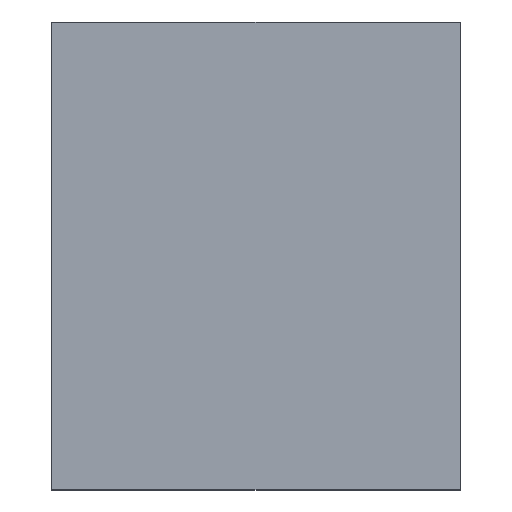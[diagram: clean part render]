
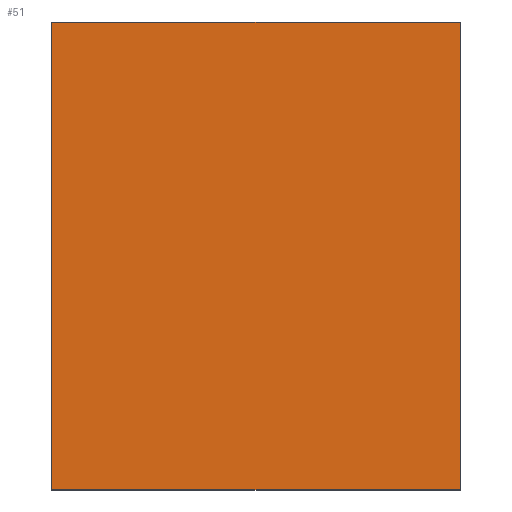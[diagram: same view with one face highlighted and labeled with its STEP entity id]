
A CAD part, top view. The second image highlights one B-rep face of the part: STEP entity #51.
In plain terms, the highlighted planar face has unit normal (0, 0, 1).
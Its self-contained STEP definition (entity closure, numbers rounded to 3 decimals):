
#4 = DIRECTION ( 'NONE',  ( -1., 0., 0. ) ) ;
#5 = VERTEX_POINT ( 'NONE', #139 ) ;
#7 = ORIENTED_EDGE ( 'NONE', *, *, #158, .T. ) ;
#20 = EDGE_LOOP ( 'NONE', ( #44, #7, #28, #76 ) ) ;
#22 = CARTESIAN_POINT ( 'NONE',  ( 0., 0., 6. ) ) ;
#28 = ORIENTED_EDGE ( 'NONE', *, *, #111, .T. ) ;
#37 = CARTESIAN_POINT ( 'NONE',  ( 173., 198., 6. ) ) ;
#39 = PLANE ( 'NONE',  #94 ) ;
#42 = LINE ( 'NONE', #114, #184 ) ;
#44 = ORIENTED_EDGE ( 'NONE', *, *, #125, .T. ) ;
#48 = CARTESIAN_POINT ( 'NONE',  ( 173., -198., 6. ) ) ;
#51 = ADVANCED_FACE ( 'NONE', ( #152 ), #39, .T. ) ;
#76 = ORIENTED_EDGE ( 'NONE', *, *, #165, .T. ) ;
#84 = VECTOR ( 'NONE', #154, 1000. ) ;
#85 = CARTESIAN_POINT ( 'NONE',  ( 173., -198., 6. ) ) ;
#91 = VERTEX_POINT ( 'NONE', #48 ) ;
#92 = DIRECTION ( 'NONE',  ( 1., 0., 0. ) ) ;
#94 = AXIS2_PLACEMENT_3D ( 'NONE', #22, #150, #92 ) ;
#103 = CARTESIAN_POINT ( 'NONE',  ( -173., -198., 6. ) ) ;
#109 = VERTEX_POINT ( 'NONE', #190 ) ;
#111 = EDGE_CURVE ( 'NONE', #91, #145, #42, .T. ) ;
#114 = CARTESIAN_POINT ( 'NONE',  ( 173., -198., 6. ) ) ;
#121 = VECTOR ( 'NONE', #4, 1000. ) ;
#125 = EDGE_CURVE ( 'NONE', #5, #109, #191, .T. ) ;
#139 = CARTESIAN_POINT ( 'NONE',  ( -173., 198., 6. ) ) ;
#145 = VERTEX_POINT ( 'NONE', #149 ) ;
#146 = LINE ( 'NONE', #85, #160 ) ;
#149 = CARTESIAN_POINT ( 'NONE',  ( 173., 198., 6. ) ) ;
#150 = DIRECTION ( 'NONE',  ( 0., 0., 1. ) ) ;
#152 = FACE_OUTER_BOUND ( 'NONE', #20, .T. ) ;
#154 = DIRECTION ( 'NONE',  ( 0., -1., 0. ) ) ;
#158 = EDGE_CURVE ( 'NONE', #109, #91, #146, .T. ) ;
#160 = VECTOR ( 'NONE', #178, 1000. ) ;
#165 = EDGE_CURVE ( 'NONE', #145, #5, #166, .T. ) ;
#166 = LINE ( 'NONE', #37, #121 ) ;
#178 = DIRECTION ( 'NONE',  ( 1., 0., 0. ) ) ;
#184 = VECTOR ( 'NONE', #192, 1000. ) ;
#190 = CARTESIAN_POINT ( 'NONE',  ( -173., -198., 6. ) ) ;
#191 = LINE ( 'NONE', #103, #84 ) ;
#192 = DIRECTION ( 'NONE',  ( 0., 1., 0. ) ) ;
